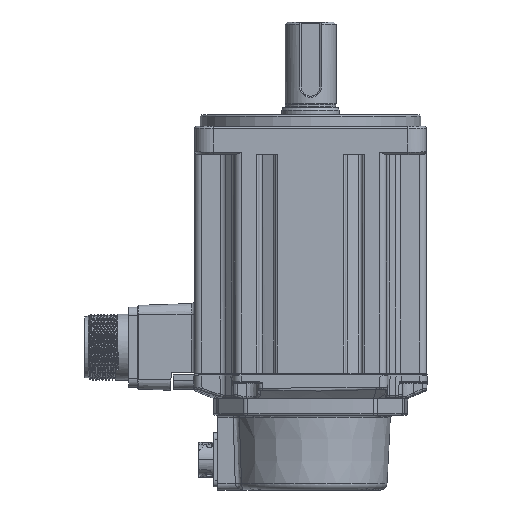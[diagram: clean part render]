
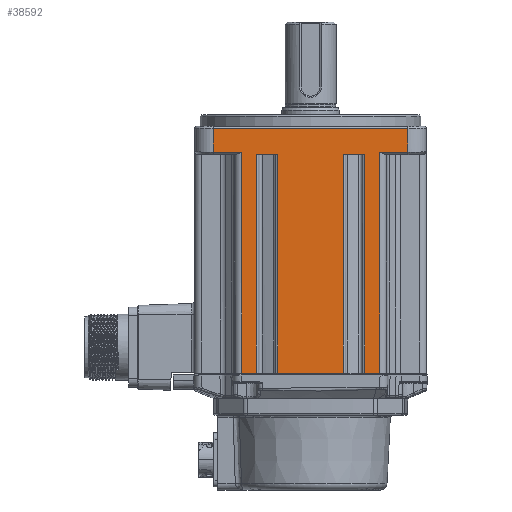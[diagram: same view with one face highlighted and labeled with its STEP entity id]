
A CAD part, left-side view. The second image highlights one B-rep face of the part: STEP entity #38592.
In plain terms, the highlighted planar face has unit normal (-1, 0, 0).
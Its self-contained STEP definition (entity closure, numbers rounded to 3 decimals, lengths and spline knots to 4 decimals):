
#2917=DIRECTION('',(0.,-1.,0.));
#2918=VECTOR('',#2917,0.3583);
#2919=CARTESIAN_POINT('',(-1.9685,0.9173,
1.937));
#2920=LINE('',#2919,#2918);
#2950=DIRECTION('',(0.,1.,0.017));
#2951=VECTOR('',#2950,0.4823);
#2952=CARTESIAN_POINT('',(-1.9685,1.1713,1.9625));
#2953=LINE('',#2952,#2951);
#2954=DIRECTION('',(0.,0.,-1.));
#2955=VECTOR('',#2954,0.3992);
#2956=CARTESIAN_POINT('',(-1.9685,1.6535,2.3701));
#2957=LINE('',#2956,#2955);
#2958=DIRECTION('',(0.,-1.,0.));
#2959=VECTOR('',#2958,3.3071);
#2960=CARTESIAN_POINT('',(-1.9685,1.6535,2.3701));
#2961=LINE('',#2960,#2959);
#2962=DIRECTION('',(0.,1.,-0.017));
#2963=VECTOR('',#2962,0.4823);
#2964=CARTESIAN_POINT('',(-1.9685,-1.6535,
1.9709));
#2965=LINE('',#2964,#2963);
#2966=DIRECTION('',(0.,1.,0.));
#2967=VECTOR('',#2966,0.254);
#2968=CARTESIAN_POINT('',(-1.9685,-1.1713,
-1.7795));
#2969=LINE('',#2968,#2967);
#2970=DIRECTION('',(0.,0.,-1.));
#2971=VECTOR('',#2970,3.7165);
#2972=CARTESIAN_POINT('',(-1.9685,-0.9173,
1.937));
#2973=LINE('',#2972,#2971);
#2974=DIRECTION('',(0.,0.,1.));
#2975=VECTOR('',#2974,3.7165);
#2976=CARTESIAN_POINT('',(-1.9685,-0.5591,
-1.7795));
#2977=LINE('',#2976,#2975);
#2978=DIRECTION('',(0.,1.,0.));
#2979=VECTOR('',#2978,1.1181);
#2980=CARTESIAN_POINT('',(-1.9685,-0.5591,
-1.7795));
#2981=LINE('',#2980,#2979);
#2982=DIRECTION('',(0.,0.,-1.));
#2983=VECTOR('',#2982,3.7165);
#2984=CARTESIAN_POINT('',(-1.9685,0.5591,
1.937));
#2985=LINE('',#2984,#2983);
#2986=DIRECTION('',(0.,0.,1.));
#2987=VECTOR('',#2986,3.7165);
#2988=CARTESIAN_POINT('',(-1.9685,0.9173,
-1.7795));
#2989=LINE('',#2988,#2987);
#2990=DIRECTION('',(0.,1.,0.));
#2991=VECTOR('',#2990,0.254);
#2992=CARTESIAN_POINT('',(-1.9685,0.9173,
-1.7795));
#2993=LINE('',#2992,#2991);
#3091=CARTESIAN_POINT('',(-1.9685,1.6535,1.9709));
#3180=DIRECTION('',(0.,0.,-1.));
#3181=VECTOR('',#3180,3.742);
#3182=CARTESIAN_POINT('',(-1.9685,1.1713,1.9625));
#3183=LINE('',#3182,#3181);
#3230=DIRECTION('',(0.,0.,-1.));
#3231=VECTOR('',#3230,0.3992);
#3232=CARTESIAN_POINT('',(-1.9685,-1.6535,
2.3701));
#3233=LINE('',#3232,#3231);
#3329=DIRECTION('',(0.,0.,1.));
#3330=VECTOR('',#3329,3.742);
#3331=CARTESIAN_POINT('',(-1.9685,-1.1713,
-1.7795));
#3332=LINE('',#3331,#3330);
#3877=DIRECTION('',(0.,-1.,0.));
#3878=VECTOR('',#3877,0.3583);
#3879=CARTESIAN_POINT('',(-1.9685,-0.5591,
1.937));
#3880=LINE('',#3879,#3878);
#29237=CARTESIAN_POINT('',(-1.9685,1.6535,
2.3701));
#29239=VERTEX_POINT('',#29237);
#29242=CARTESIAN_POINT('',(-1.9685,-1.6535,
2.3701));
#29243=VERTEX_POINT('',#29242);
#29430=CARTESIAN_POINT('',(-1.9685,0.9173,
-1.7795));
#29432=VERTEX_POINT('',#29430);
#29434=CARTESIAN_POINT('',(-1.9685,-0.5591,
-1.7795));
#29436=VERTEX_POINT('',#29434);
#29437=CARTESIAN_POINT('',(-1.9685,-0.9173,
-1.7795));
#29439=VERTEX_POINT('',#29437);
#29457=CARTESIAN_POINT('',(-1.9685,0.5591,
-1.7795));
#29459=VERTEX_POINT('',#29457);
#29471=CARTESIAN_POINT('',(-1.9685,-1.1713,
-1.7795));
#29472=VERTEX_POINT('',#29471);
#29473=CARTESIAN_POINT('',(-1.9685,1.1713,
-1.7795));
#29475=VERTEX_POINT('',#29473);
#29570=VERTEX_POINT('',#3091);
#29573=CARTESIAN_POINT('',(-1.9685,1.1713,
1.9625));
#29574=VERTEX_POINT('',#29573);
#29589=CARTESIAN_POINT('',(-1.9685,-1.6535,
1.9709));
#29590=CARTESIAN_POINT('',(-1.9685,-1.1713,
1.9625));
#29591=VERTEX_POINT('',#29589);
#29592=VERTEX_POINT('',#29590);
#29647=CARTESIAN_POINT('',(-1.9685,0.9173,
1.937));
#29648=VERTEX_POINT('',#29647);
#29651=CARTESIAN_POINT('',(-1.9685,-0.5591,
1.937));
#29652=VERTEX_POINT('',#29651);
#29655=CARTESIAN_POINT('',(-1.9685,-0.9173,
1.937));
#29656=VERTEX_POINT('',#29655);
#29659=CARTESIAN_POINT('',(-1.9685,0.5591,
1.937));
#29660=VERTEX_POINT('',#29659);
#38559=CARTESIAN_POINT('',(-1.9685,1.6535,
2.4094));
#38560=DIRECTION('',(-1.,0.,0.));
#38561=DIRECTION('',(0.,-1.,0.));
#38562=AXIS2_PLACEMENT_3D('',#38559,#38560,#38561);
#38563=PLANE('',#38562);
#38565=ORIENTED_EDGE('',*,*,#38564,.T.);
#38567=ORIENTED_EDGE('',*,*,#38566,.F.);
#38568=ORIENTED_EDGE('',*,*,#37545,.T.);
#38570=ORIENTED_EDGE('',*,*,#38569,.T.);
#38572=ORIENTED_EDGE('',*,*,#38571,.T.);
#38574=ORIENTED_EDGE('',*,*,#38573,.F.);
#38575=ORIENTED_EDGE('',*,*,#38149,.T.);
#38577=ORIENTED_EDGE('',*,*,#38576,.F.);
#38579=ORIENTED_EDGE('',*,*,#38578,.F.);
#38581=ORIENTED_EDGE('',*,*,#38580,.F.);
#38582=ORIENTED_EDGE('',*,*,#38133,.T.);
#38584=ORIENTED_EDGE('',*,*,#38583,.F.);
#38585=ORIENTED_EDGE('',*,*,#38530,.F.);
#38586=ORIENTED_EDGE('',*,*,#38480,.F.);
#38587=ORIENTED_EDGE('',*,*,#38266,.T.);
#38589=ORIENTED_EDGE('',*,*,#38588,.F.);
#38590=EDGE_LOOP('',(#38565,#38567,#38568,#38570,#38572,#38574,#38575,#38577,
#38579,#38581,#38582,#38584,#38585,#38586,#38587,#38589));
#38591=FACE_OUTER_BOUND('',#38590,.F.);
#37545=EDGE_CURVE('',#29239,#29243,#2961,.T.);
#38133=EDGE_CURVE('',#29436,#29459,#2981,.T.);
#38149=EDGE_CURVE('',#29472,#29439,#2969,.T.);
#38266=EDGE_CURVE('',#29432,#29475,#2993,.T.);
#38480=EDGE_CURVE('',#29432,#29648,#2989,.T.);
#38530=EDGE_CURVE('',#29648,#29660,#2920,.T.);
#38564=EDGE_CURVE('',#29574,#29570,#2953,.T.);
#38566=EDGE_CURVE('',#29239,#29570,#2957,.T.);
#38569=EDGE_CURVE('',#29243,#29591,#3233,.T.);
#38571=EDGE_CURVE('',#29591,#29592,#2965,.T.);
#38573=EDGE_CURVE('',#29472,#29592,#3332,.T.);
#38576=EDGE_CURVE('',#29656,#29439,#2973,.T.);
#38578=EDGE_CURVE('',#29652,#29656,#3880,.T.);
#38580=EDGE_CURVE('',#29436,#29652,#2977,.T.);
#38583=EDGE_CURVE('',#29660,#29459,#2985,.T.);
#38588=EDGE_CURVE('',#29574,#29475,#3183,.T.);
#38592=ADVANCED_FACE('',(#38591),#38563,.T.);
